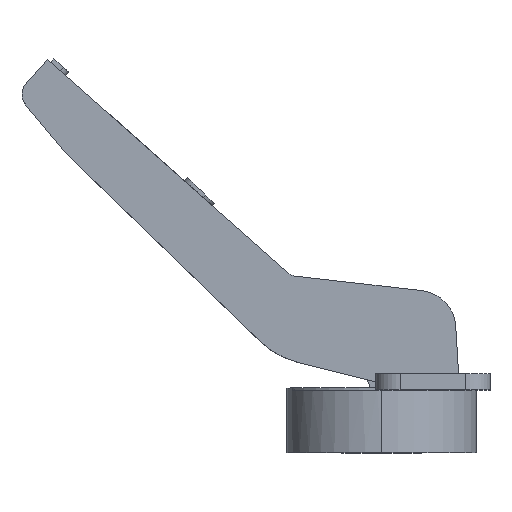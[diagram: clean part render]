
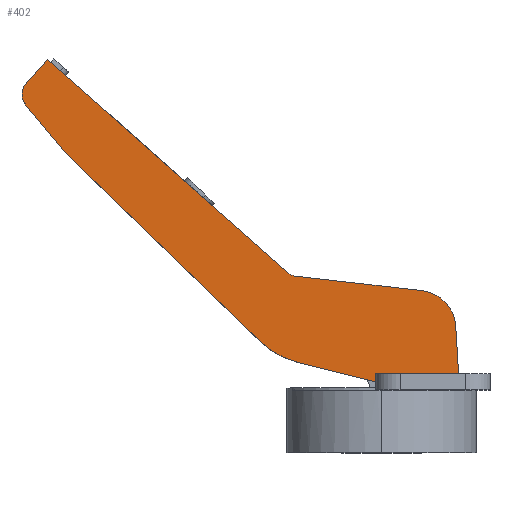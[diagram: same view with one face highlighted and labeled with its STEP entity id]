
A CAD part, top view. The second image highlights one B-rep face of the part: STEP entity #402.
In plain terms, the highlighted planar face has unit normal (0, 0, 1).
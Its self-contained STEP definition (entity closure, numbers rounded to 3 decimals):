
#3 = DIRECTION ( 'NONE',  ( 0.719, -0.695, 0. ) ) ;
#5 = DIRECTION ( 'NONE',  ( 0., 0., -1. ) ) ;
#22 = AXIS2_PLACEMENT_3D ( 'NONE', #1018, #5, #1622 ) ;
#42 = VERTEX_POINT ( 'NONE', #1946 ) ;
#67 = CARTESIAN_POINT ( 'NONE',  ( -1.082, 3.1, 8.6 ) ) ;
#139 = DIRECTION ( 'NONE',  ( 0., 0., -1. ) ) ;
#152 = CIRCLE ( 'NONE', #709, 15. ) ;
#185 = CARTESIAN_POINT ( 'NONE',  ( -15.447, 5.22, 8.6 ) ) ;
#224 = ORIENTED_EDGE ( 'NONE', *, *, #1023, .T. ) ;
#227 = EDGE_CURVE ( 'NONE', #2583, #2148, #1519, .T. ) ;
#256 = ORIENTED_EDGE ( 'NONE', *, *, #1060, .T. ) ;
#302 = DIRECTION ( 'NONE',  ( -0.06, 0.998, 0. ) ) ;
#308 = CARTESIAN_POINT ( 'NONE',  ( 13.591, 11.827, 8.6 ) ) ;
#357 = EDGE_CURVE ( 'NONE', #2383, #2131, #1149, .T. ) ;
#372 = DIRECTION ( 'NONE',  ( 0.719, -0.695, 0. ) ) ;
#402 = ADVANCED_FACE ( 'NONE', ( #1211 ), #1808, .T. ) ;
#409 = VECTOR ( 'NONE', #653, 1000. ) ;
#410 = VECTOR ( 'NONE', #1247, 1000. ) ;
#444 = ORIENTED_EDGE ( 'NONE', *, *, #514, .T. ) ;
#452 = CARTESIAN_POINT ( 'NONE',  ( -63.597, 58.278, 8.6 ) ) ;
#466 = CARTESIAN_POINT ( 'NONE',  ( -22.234, 8.991, 8.6 ) ) ;
#470 = ORIENTED_EDGE ( 'NONE', *, *, #2134, .F. ) ;
#479 = EDGE_CURVE ( 'NONE', #1613, #528, #152, .T. ) ;
#484 = EDGE_CURVE ( 'NONE', #850, #809, #783, .T. ) ;
#485 = VERTEX_POINT ( 'NONE', #1199 ) ;
#488 = LINE ( 'NONE', #452, #2227 ) ;
#514 = EDGE_CURVE ( 'NONE', #2028, #850, #1001, .T. ) ;
#528 = VERTEX_POINT ( 'NONE', #466 ) ;
#569 = ORIENTED_EDGE ( 'NONE', *, *, #2035, .F. ) ;
#588 = CARTESIAN_POINT ( 'NONE',  ( -56.572, 42.223, 8.6 ) ) ;
#613 = ORIENTED_EDGE ( 'NONE', *, *, #785, .F. ) ;
#641 = ORIENTED_EDGE ( 'NONE', *, *, #1993, .T. ) ;
#653 = DIRECTION ( 'NONE',  ( 0.719, -0.695, 0. ) ) ;
#709 = AXIS2_PLACEMENT_3D ( 'NONE', #1570, #1372, #1598 ) ;
#713 = CIRCLE ( 'NONE', #2270, 30. ) ;
#750 = AXIS2_PLACEMENT_3D ( 'NONE', #1582, #810, #1177 ) ;
#756 = DIRECTION ( 'NONE',  ( -0.993, 0.114, 0. ) ) ;
#758 = ORIENTED_EDGE ( 'NONE', *, *, #357, .T. ) ;
#773 = ORIENTED_EDGE ( 'NONE', *, *, #2541, .T. ) ;
#775 = CARTESIAN_POINT ( 'NONE',  ( -35.709, 63.781, 8.6 ) ) ;
#776 = CARTESIAN_POINT ( 'NONE',  ( 7.404, 18.361, 8.6 ) ) ;
#783 = LINE ( 'NONE', #1189, #1506 ) ;
#785 = EDGE_CURVE ( 'NONE', #485, #1471, #2384, .T. ) ;
#809 = VERTEX_POINT ( 'NONE', #999 ) ;
#810 = DIRECTION ( 'NONE',  ( 0., 0., 1. ) ) ;
#833 = CARTESIAN_POINT ( 'NONE',  ( -65.293, 56.365, 8.6 ) ) ;
#850 = VERTEX_POINT ( 'NONE', #2372 ) ;
#901 = CARTESIAN_POINT ( 'NONE',  ( -65.348, 52.449, 8.6 ) ) ;
#937 = CARTESIAN_POINT ( 'NONE',  ( -63.048, 54.375, 8.6 ) ) ;
#999 = CARTESIAN_POINT ( 'NONE',  ( -61.34, 60.824, 8.6 ) ) ;
#1001 = CIRCLE ( 'NONE', #22, 2. ) ;
#1006 = EDGE_CURVE ( 'NONE', #1613, #2148, #1817, .T. ) ;
#1018 = CARTESIAN_POINT ( 'NONE',  ( -15.702, 23.032, 8.6 ) ) ;
#1023 = EDGE_CURVE ( 'NONE', #485, #42, #713, .T. ) ;
#1060 = EDGE_CURVE ( 'NONE', #2131, #1238, #1300, .T. ) ;
#1085 = VECTOR ( 'NONE', #302, 1000. ) ;
#1094 = DIRECTION ( 'NONE',  ( -1., 0., 0. ) ) ;
#1107 = LINE ( 'NONE', #2502, #1855 ) ;
#1134 = CARTESIAN_POINT ( 'NONE',  ( -15.931, 21.045, 8.6 ) ) ;
#1137 = CIRCLE ( 'NONE', #2107, 3. ) ;
#1139 = CARTESIAN_POINT ( 'NONE',  ( 13.591, 11.827, 8.6 ) ) ;
#1149 = LINE ( 'NONE', #1139, #1085 ) ;
#1177 = DIRECTION ( 'NONE',  ( 0.719, -0.695, 0. ) ) ;
#1189 = CARTESIAN_POINT ( 'NONE',  ( -61.34, 60.824, 8.6 ) ) ;
#1199 = CARTESIAN_POINT ( 'NONE',  ( -58.711, 44.522, 8.6 ) ) ;
#1203 = CARTESIAN_POINT ( 'NONE',  ( 6.604, 11.407, 8.6 ) ) ;
#1211 = FACE_OUTER_BOUND ( 'NONE', #2554, .T. ) ;
#1218 = VECTOR ( 'NONE', #756, 1000. ) ;
#1238 = VERTEX_POINT ( 'NONE', #776 ) ;
#1247 = DIRECTION ( 'NONE',  ( 0.97, -0.243, 0. ) ) ;
#1300 = CIRCLE ( 'NONE', #1596, 7. ) ;
#1307 = DIRECTION ( 'NONE',  ( 0., -1., 0. ) ) ;
#1330 = LINE ( 'NONE', #1566, #1218 ) ;
#1356 = DIRECTION ( 'NONE',  ( -0.642, 0.767, 0. ) ) ;
#1372 = DIRECTION ( 'NONE',  ( 0., 0., -1. ) ) ;
#1463 = ORIENTED_EDGE ( 'NONE', *, *, #1006, .T. ) ;
#1471 = VERTEX_POINT ( 'NONE', #901 ) ;
#1476 = DIRECTION ( 'NONE',  ( 0.663, 0.748, 0. ) ) ;
#1506 = VECTOR ( 'NONE', #1793, 1000. ) ;
#1519 = LINE ( 'NONE', #1543, #1668 ) ;
#1543 = CARTESIAN_POINT ( 'NONE',  ( -1.082, 9.048, 8.6 ) ) ;
#1562 = DIRECTION ( 'NONE',  ( 0., 0., 1. ) ) ;
#1566 = CARTESIAN_POINT ( 'NONE',  ( 7.404, 18.361, 8.6 ) ) ;
#1570 = CARTESIAN_POINT ( 'NONE',  ( -11.802, 19.77, 8.6 ) ) ;
#1582 = CARTESIAN_POINT ( 'NONE',  ( -8.04, 9.048, 8.6 ) ) ;
#1596 = AXIS2_PLACEMENT_3D ( 'NONE', #1203, #1562, #1785 ) ;
#1598 = DIRECTION ( 'NONE',  ( -0.719, 0.695, 0. ) ) ;
#1613 = VERTEX_POINT ( 'NONE', #185 ) ;
#1622 = DIRECTION ( 'NONE',  ( 1., 0., 0. ) ) ;
#1668 = VECTOR ( 'NONE', #1307, 1000. ) ;
#1738 = VERTEX_POINT ( 'NONE', #833 ) ;
#1757 = VECTOR ( 'NONE', #1356, 1000. ) ;
#1785 = DIRECTION ( 'NONE',  ( 1., 0., 0. ) ) ;
#1789 = CARTESIAN_POINT ( 'NONE',  ( -60.553, 46.722, 8.6 ) ) ;
#1793 = DIRECTION ( 'NONE',  ( -0.748, 0.663, 0. ) ) ;
#1808 = PLANE ( 'NONE',  #750 ) ;
#1817 = LINE ( 'NONE', #2453, #410 ) ;
#1855 = VECTOR ( 'NONE', #1094, 1000. ) ;
#1909 = CARTESIAN_POINT ( 'NONE',  ( -1.082, 1.622, 8.6 ) ) ;
#1946 = CARTESIAN_POINT ( 'NONE',  ( -56.572, 42.223, 8.6 ) ) ;
#1993 = EDGE_CURVE ( 'NONE', #1238, #2028, #1330, .T. ) ;
#2028 = VERTEX_POINT ( 'NONE', #1134 ) ;
#2035 = EDGE_CURVE ( 'NONE', #1471, #1738, #1137, .T. ) ;
#2086 = ORIENTED_EDGE ( 'NONE', *, *, #2195, .F. ) ;
#2107 = AXIS2_PLACEMENT_3D ( 'NONE', #937, #139, #3 ) ;
#2131 = VERTEX_POINT ( 'NONE', #308 ) ;
#2134 = EDGE_CURVE ( 'NONE', #2383, #2583, #1107, .T. ) ;
#2148 = VERTEX_POINT ( 'NONE', #1909 ) ;
#2195 = EDGE_CURVE ( 'NONE', #1738, #809, #488, .T. ) ;
#2227 = VECTOR ( 'NONE', #1476, 1000. ) ;
#2246 = ORIENTED_EDGE ( 'NONE', *, *, #484, .T. ) ;
#2270 = AXIS2_PLACEMENT_3D ( 'NONE', #775, #2589, #372 ) ;
#2372 = CARTESIAN_POINT ( 'NONE',  ( -17.029, 21.535, 8.6 ) ) ;
#2383 = VERTEX_POINT ( 'NONE', #2568 ) ;
#2384 = LINE ( 'NONE', #1789, #1757 ) ;
#2403 = ORIENTED_EDGE ( 'NONE', *, *, #227, .F. ) ;
#2453 = CARTESIAN_POINT ( 'NONE',  ( 5.023, 0.093, 8.6 ) ) ;
#2464 = ORIENTED_EDGE ( 'NONE', *, *, #479, .F. ) ;
#2502 = CARTESIAN_POINT ( 'NONE',  ( -8.04, 3.1, 8.6 ) ) ;
#2541 = EDGE_CURVE ( 'NONE', #42, #528, #2591, .T. ) ;
#2554 = EDGE_LOOP ( 'NONE', ( #2403, #470, #758, #256, #641, #444, #2246, #2086, #569, #613, #224, #773, #2464, #1463 ) ) ;
#2568 = CARTESIAN_POINT ( 'NONE',  ( 14.116, 3.1, 8.6 ) ) ;
#2583 = VERTEX_POINT ( 'NONE', #67 ) ;
#2589 = DIRECTION ( 'NONE',  ( 0., 0., 1. ) ) ;
#2591 = LINE ( 'NONE', #588, #409 ) ;
